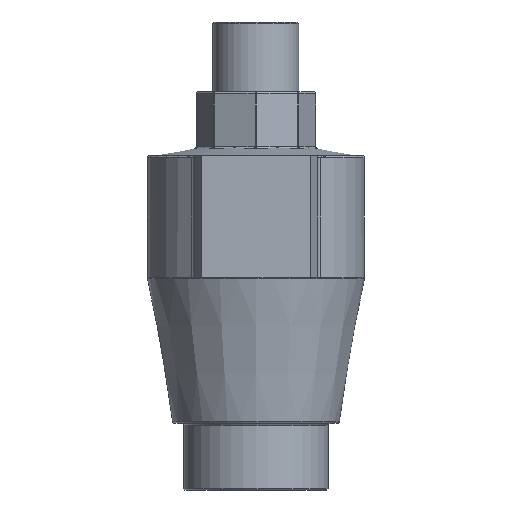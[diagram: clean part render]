
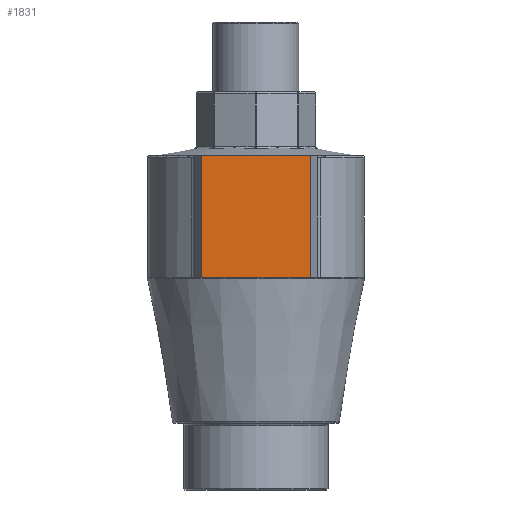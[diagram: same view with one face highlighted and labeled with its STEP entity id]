
A CAD part, front view. The second image highlights one B-rep face of the part: STEP entity #1831.
In plain terms, the highlighted planar face has unit normal (0, -1, 0).
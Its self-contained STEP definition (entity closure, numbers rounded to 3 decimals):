
#115=PLANE('',#2066);
#212=LINE('',#2972,#293);
#217=LINE('',#3126,#298);
#228=LINE('',#3733,#309);
#262=LINE('',#4376,#343);
#293=VECTOR('',#2235,10.);
#298=VECTOR('',#2248,10.);
#309=VECTOR('',#2359,10.);
#343=VECTOR('',#2575,10.);
#466=FACE_OUTER_BOUND('',#590,.T.);
#590=EDGE_LOOP('',(#1679,#1680,#1681,#1682));
#773=VERTEX_POINT('',#2969);
#774=VERTEX_POINT('',#2971);
#783=VERTEX_POINT('',#3123);
#784=VERTEX_POINT('',#3125);
#966=EDGE_CURVE('',#774,#773,#212,.T.);
#979=EDGE_CURVE('',#783,#784,#217,.T.);
#1035=EDGE_CURVE('',#774,#783,#228,.T.);
#1154=EDGE_CURVE('',#784,#773,#262,.T.);
#1679=ORIENTED_EDGE('',*,*,#1154,.F.);
#1680=ORIENTED_EDGE('',*,*,#979,.F.);
#1681=ORIENTED_EDGE('',*,*,#1035,.F.);
#1682=ORIENTED_EDGE('',*,*,#966,.T.);
#1831=ADVANCED_FACE('',(#466),#115,.T.);
#2066=AXIS2_PLACEMENT_3D('',#4375,#2573,#2574);
#2235=DIRECTION('',(0.,0.,-1.));
#2248=DIRECTION('',(0.,0.,-1.));
#2359=DIRECTION('',(1.,0.,0.));
#2573=DIRECTION('center_axis',(0.,-1.,0.));
#2574=DIRECTION('ref_axis',(-1.,0.,0.));
#2575=DIRECTION('',(-1.,0.,0.));
#2969=CARTESIAN_POINT('',(-13.25,-27.,-62.354));
#2971=CARTESIAN_POINT('',(-13.25,-27.,-32.565));
#2972=CARTESIAN_POINT('',(-13.25,-27.,-32.565));
#3123=CARTESIAN_POINT('',(13.25,-27.,-32.565));
#3125=CARTESIAN_POINT('',(13.25,-27.,-62.354));
#3126=CARTESIAN_POINT('',(13.25,-27.,-32.565));
#3733=CARTESIAN_POINT('',(-13.25,-27.,-32.565));
#4375=CARTESIAN_POINT('Origin',(13.25,-27.,-32.565));
#4376=CARTESIAN_POINT('',(6.625,-27.,-62.354));
